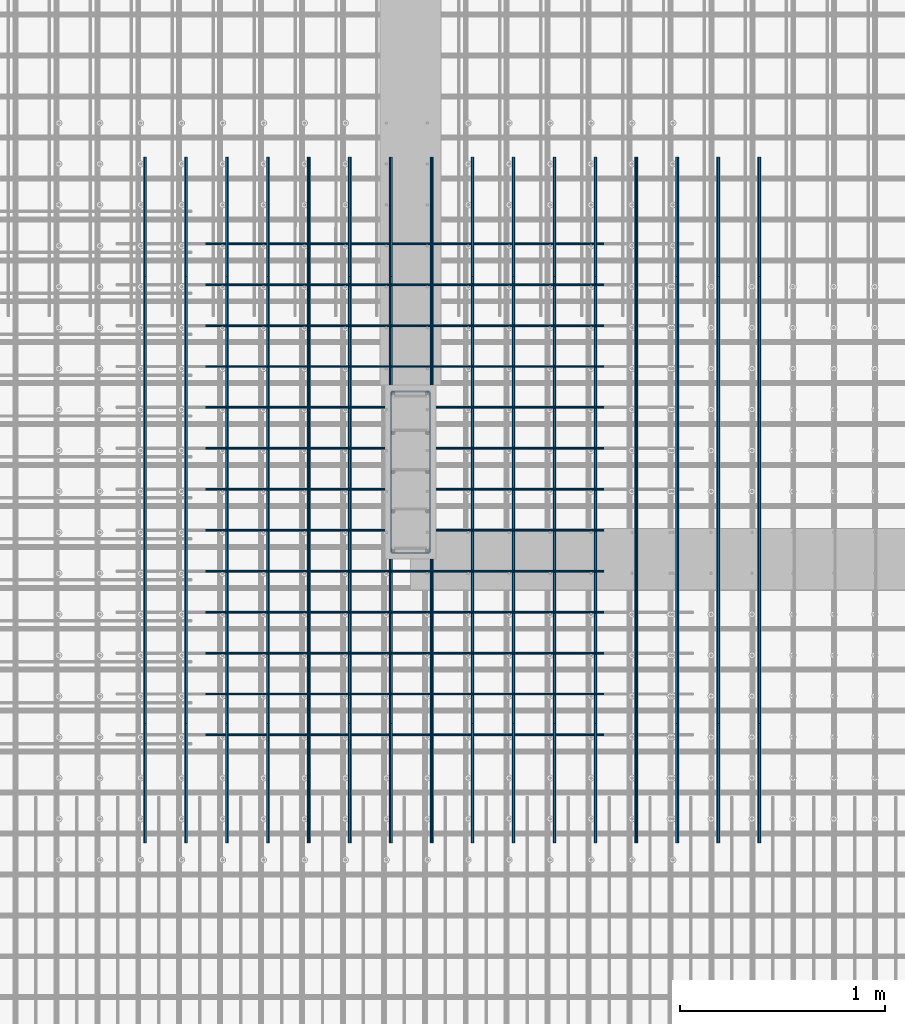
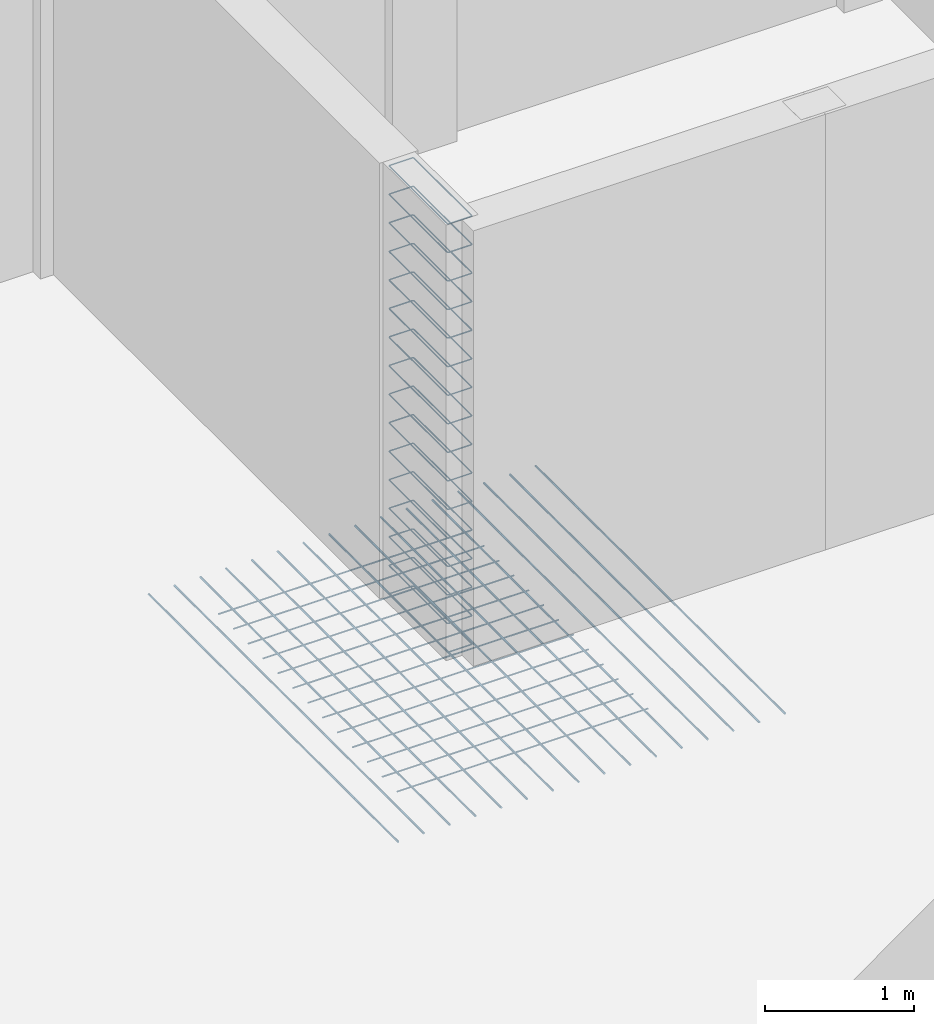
# One storey, part 6 of 8: 4 reinforcing bars.
"""IFC4 building model written with IfcOpenShell, lengths in metres."""

from ifc_helpers import new_model, entity, si_unit, origin_with_axes, place, context, project, spatial, source, transform, mapped, element, save


model = new_model("IFC4")

# Units and contexts
model_context = context("Model", 3, precision=1e-05, world=origin_with_axes())
ifc_project = project(units=[si_unit("LENGTHUNIT", "METRE"), si_unit("AREAUNIT", "SQUARE_METRE"), si_unit("VOLUMEUNIT", "CUBIC_METRE"), si_unit("MASSUNIT", "GRAM", prefix="KILO"), si_unit("TIMEUNIT", "SECOND"), si_unit("PLANEANGLEUNIT", "RADIAN"), si_unit("SOLIDANGLEUNIT", "STERADIAN"), si_unit("THERMODYNAMICTEMPERATUREUNIT", "DEGREE_CELSIUS")], contexts=[model_context])

# Site, building, storey
placement_1 = place(None, origin_with_axes())
site = spatial("IfcSite", under=ifc_project, at=placement_1, Name="Italia", CompositionType="ELEMENT")
building = spatial("IfcBuilding", under=site, at=placement_1, Name="Abitazione", CompositionType="ELEMENT")
storey = spatial("IfcBuildingStorey", under=building, at=placement_1, Name="Storey 0", CompositionType="ELEMENT", Elevation=0.0)

# Reinforcing bars
shared_shape_1 = source(origin_with_axes(), model_context, "Body", "AdvancedSweptSolid", [
    entity("IfcSweptDiskSolid", entity("IfcIndexedPolyCurve", entity("IfcCartesianPointList3D", [[8.035, 6.27, 0.04], [8.035, 6.75, 0.04], [8.03576, 6.75383, 0.04], [8.03793, 6.75707, 0.04], [8.04117, 6.75924, 0.04], [8.045, 6.76, 0.04], [8.215, 6.76, 0.04], [8.21883, 6.75924, 0.04], [8.22207, 6.75707, 0.04], [8.22424, 6.75383, 0.04], [8.225, 6.75, 0.04], [8.225, 6.27, 0.04]]), [entity("IfcLineIndex", [1, 2]), entity("IfcLineIndex", [2, 3]), entity("IfcLineIndex", [3, 4]), entity("IfcLineIndex", [4, 5]), entity("IfcLineIndex", [5, 6]), entity("IfcLineIndex", [6, 7]), entity("IfcLineIndex", [7, 8]), entity("IfcLineIndex", [8, 9]), entity("IfcLineIndex", [9, 10]), entity("IfcLineIndex", [10, 11]), entity("IfcLineIndex", [11, 12])], False), 0.005),
])
placement_2 = place(placement_1, origin_with_axes())
reinforcing_bar_1_placement = place(placement_2, origin_with_axes())
element("IfcReinforcingBar", 1, at=reinforcing_bar_1_placement, inside=storey, BarLength=1.16122, CrossSectionArea=7.854e-05, NominalDiameter=0.01, context=model_context, shape_type="MappedRepresentation", body=[
    mapped(shared_shape_1, transform((0.0, 0.0, 2.34), x_axis=(1.0, 0.0, 0.0), y_axis=(0.0, 1.0, 0.0), z_axis=(0.0, 0.0, 1.0), scale=1.0)),
    mapped(shared_shape_1, transform((0.0, 0.0, 2.574), x_axis=(1.0, 0.0, 0.0), y_axis=(0.0, 1.0, 0.0), z_axis=(0.0, 0.0, 1.0), scale=1.0)),
    mapped(shared_shape_1, transform((0.0, 0.0, 1.872), x_axis=(1.0, 0.0, 0.0), y_axis=(0.0, 1.0, 0.0), z_axis=(0.0, 0.0, 1.0), scale=1.0)),
    mapped(shared_shape_1, transform((0.0, 0.0, 2.106), x_axis=(1.0, 0.0, 0.0), y_axis=(0.0, 1.0, 0.0), z_axis=(0.0, 0.0, 1.0), scale=1.0)),
    mapped(shared_shape_1, transform((0.0, 0.0, 3.276), x_axis=(1.0, 0.0, 0.0), y_axis=(0.0, 1.0, 0.0), z_axis=(0.0, 0.0, 1.0), scale=1.0)),
    mapped(shared_shape_1, transform((0.0, 0.0, 3.51), x_axis=(1.0, 0.0, 0.0), y_axis=(0.0, 1.0, 0.0), z_axis=(0.0, 0.0, 1.0), scale=1.0)),
    mapped(shared_shape_1, transform((0.0, 0.0, 2.808), x_axis=(1.0, 0.0, 0.0), y_axis=(0.0, 1.0, 0.0), z_axis=(0.0, 0.0, 1.0), scale=1.0)),
    mapped(shared_shape_1, transform((0.0, 0.0, 3.042), x_axis=(1.0, 0.0, 0.0), y_axis=(0.0, 1.0, 0.0), z_axis=(0.0, 0.0, 1.0), scale=1.0)),
    mapped(shared_shape_1, transform((0.0, 0.0, 0.468), x_axis=(1.0, 0.0, 0.0), y_axis=(0.0, 1.0, 0.0), z_axis=(0.0, 0.0, 1.0), scale=1.0)),
    mapped(shared_shape_1, transform((0.0, 0.0, 0.702), x_axis=(1.0, 0.0, 0.0), y_axis=(0.0, 1.0, 0.0), z_axis=(0.0, 0.0, 1.0), scale=1.0)),
    mapped(shared_shape_1, transform((16.26, 12.73, 0.0), x_axis=(-1.0, 0.0, 0.0), y_axis=(0.0, -1.0, 0.0), z_axis=(0.0, 0.0, 1.0), scale=1.0)),
    mapped(shared_shape_1, transform((0.0, 0.0, 0.0), x_axis=(1.0, 0.0, 0.0), y_axis=(0.0, 1.0, 0.0), z_axis=(0.0, 0.0, 1.0), scale=1.0)),
    mapped(shared_shape_1, transform((16.26, 12.73, 0.234), x_axis=(-1.0, 0.0, 0.0), y_axis=(0.0, -1.0, 0.0), z_axis=(0.0, 0.0, 1.0), scale=1.0)),
    mapped(shared_shape_1, transform((0.0, 0.0, 0.234), x_axis=(1.0, 0.0, 0.0), y_axis=(0.0, 1.0, 0.0), z_axis=(0.0, 0.0, 1.0), scale=1.0)),
    mapped(shared_shape_1, transform((16.26, 12.73, 0.468), x_axis=(-1.0, 0.0, 0.0), y_axis=(0.0, -1.0, 0.0), z_axis=(0.0, 0.0, 1.0), scale=1.0)),
    mapped(shared_shape_1, transform((16.26, 12.73, 0.702), x_axis=(-1.0, 0.0, 0.0), y_axis=(0.0, -1.0, 0.0), z_axis=(0.0, 0.0, 1.0), scale=1.0)),
    mapped(shared_shape_1, transform((0.0, 0.0, 1.404), x_axis=(1.0, 0.0, 0.0), y_axis=(0.0, 1.0, 0.0), z_axis=(0.0, 0.0, 1.0), scale=1.0)),
    mapped(shared_shape_1, transform((0.0, 0.0, 1.638), x_axis=(1.0, 0.0, 0.0), y_axis=(0.0, 1.0, 0.0), z_axis=(0.0, 0.0, 1.0), scale=1.0)),
    mapped(shared_shape_1, transform((16.26, 12.73, 0.936), x_axis=(-1.0, 0.0, 0.0), y_axis=(0.0, -1.0, 0.0), z_axis=(0.0, 0.0, 1.0), scale=1.0)),
    mapped(shared_shape_1, transform((0.0, 0.0, 0.936), x_axis=(1.0, 0.0, 0.0), y_axis=(0.0, 1.0, 0.0), z_axis=(0.0, 0.0, 1.0), scale=1.0)),
    mapped(shared_shape_1, transform((16.26, 12.73, 1.17), x_axis=(-1.0, 0.0, 0.0), y_axis=(0.0, -1.0, 0.0), z_axis=(0.0, 0.0, 1.0), scale=1.0)),
    mapped(shared_shape_1, transform((0.0, 0.0, 1.17), x_axis=(1.0, 0.0, 0.0), y_axis=(0.0, 1.0, 0.0), z_axis=(0.0, 0.0, 1.0), scale=1.0)),
    mapped(shared_shape_1, transform((16.26, 12.73, 2.34), x_axis=(-1.0, 0.0, 0.0), y_axis=(0.0, -1.0, 0.0), z_axis=(0.0, 0.0, 1.0), scale=1.0)),
    mapped(shared_shape_1, transform((16.26, 12.73, 2.574), x_axis=(-1.0, 0.0, 0.0), y_axis=(0.0, -1.0, 0.0), z_axis=(0.0, 0.0, 1.0), scale=1.0)),
    mapped(shared_shape_1, transform((16.26, 12.73, 1.872), x_axis=(-1.0, 0.0, 0.0), y_axis=(0.0, -1.0, 0.0), z_axis=(0.0, 0.0, 1.0), scale=1.0)),
    mapped(shared_shape_1, transform((16.26, 12.73, 2.106), x_axis=(-1.0, 0.0, 0.0), y_axis=(0.0, -1.0, 0.0), z_axis=(0.0, 0.0, 1.0), scale=1.0)),
    mapped(shared_shape_1, transform((16.26, 12.73, 3.276), x_axis=(-1.0, 0.0, 0.0), y_axis=(0.0, -1.0, 0.0), z_axis=(0.0, 0.0, 1.0), scale=1.0)),
    mapped(shared_shape_1, transform((16.26, 12.73, 3.51), x_axis=(-1.0, 0.0, 0.0), y_axis=(0.0, -1.0, 0.0), z_axis=(0.0, 0.0, 1.0), scale=1.0)),
    mapped(shared_shape_1, transform((16.26, 12.73, 2.808), x_axis=(-1.0, 0.0, 0.0), y_axis=(0.0, -1.0, 0.0), z_axis=(0.0, 0.0, 1.0), scale=1.0)),
    mapped(shared_shape_1, transform((16.26, 12.73, 3.042), x_axis=(-1.0, 0.0, 0.0), y_axis=(0.0, -1.0, 0.0), z_axis=(0.0, 0.0, 1.0), scale=1.0)),
    mapped(shared_shape_1, transform((16.26, 12.73, 1.404), x_axis=(-1.0, 0.0, 0.0), y_axis=(0.0, -1.0, 0.0), z_axis=(0.0, 0.0, 1.0), scale=1.0)),
    mapped(shared_shape_1, transform((16.26, 12.73, 1.638), x_axis=(-1.0, 0.0, 0.0), y_axis=(0.0, -1.0, 0.0), z_axis=(0.0, 0.0, 1.0), scale=1.0)),
])
shared_shape_2 = source(origin_with_axes(), model_context, "Body", "AdvancedSweptSolid", [
    entity("IfcSweptDiskSolid", entity("IfcIndexedPolyCurve", entity("IfcCartesianPointList3D", [[7.12918, 5.0812, -0.246], [9.07509, 5.0812, -0.246]]), [entity("IfcLineIndex", [1, 2])], False), 0.006),
])
reinforcing_bar_2_placement = place(placement_2, origin_with_axes())
element("IfcReinforcingBar", 2, at=reinforcing_bar_2_placement, inside=storey, BarLength=1.94591, CrossSectionArea=0.0001131, NominalDiameter=0.012, context=model_context, shape_type="MappedRepresentation", body=[
    mapped(shared_shape_2, transform((0.0, 2.4, 0.0), x_axis=(1.0, 0.0, 0.0), y_axis=(0.0, 1.0, 0.0), z_axis=(0.0, 0.0, 1.0), scale=1.0)),
    mapped(shared_shape_2, transform((0.0, 1.6, 0.0), x_axis=(1.0, 0.0, 0.0), y_axis=(0.0, 1.0, 0.0), z_axis=(0.0, 0.0, 1.0), scale=1.0)),
    mapped(shared_shape_2, transform((0.0, 1.4, 0.0), x_axis=(1.0, 0.0, 0.0), y_axis=(0.0, 1.0, 0.0), z_axis=(0.0, 0.0, 1.0), scale=1.0)),
    mapped(shared_shape_2, transform((0.0, 1.8, 0.0), x_axis=(1.0, 0.0, 0.0), y_axis=(0.0, 1.0, 0.0), z_axis=(0.0, 0.0, 1.0), scale=1.0)),
    mapped(shared_shape_2, transform((0.0, 2.2, 0.0), x_axis=(1.0, 0.0, 0.0), y_axis=(0.0, 1.0, 0.0), z_axis=(0.0, 0.0, 1.0), scale=1.0)),
    mapped(shared_shape_2, transform((0.0, 2.0, 0.0), x_axis=(1.0, 0.0, 0.0), y_axis=(0.0, 1.0, 0.0), z_axis=(0.0, 0.0, 1.0), scale=1.0)),
    mapped(shared_shape_2, transform((0.0, 1.2, 0.0), x_axis=(1.0, 0.0, 0.0), y_axis=(0.0, 1.0, 0.0), z_axis=(0.0, 0.0, 1.0), scale=1.0)),
    mapped(shared_shape_2, transform((0.0, 0.399999, 0.0), x_axis=(1.0, 0.0, 0.0), y_axis=(0.0, 1.0, 0.0), z_axis=(0.0, 0.0, 1.0), scale=1.0)),
    mapped(shared_shape_2, transform((0.0, 0.199999, 0.0), x_axis=(1.0, 0.0, 0.0), y_axis=(0.0, 1.0, 0.0), z_axis=(0.0, 0.0, 1.0), scale=1.0)),
    mapped(shared_shape_2, transform((0.0, 0.599999, 0.0), x_axis=(1.0, 0.0, 0.0), y_axis=(0.0, 1.0, 0.0), z_axis=(0.0, 0.0, 1.0), scale=1.0)),
    mapped(shared_shape_2, transform((0.0, 0.999999, 0.0), x_axis=(1.0, 0.0, 0.0), y_axis=(0.0, 1.0, 0.0), z_axis=(0.0, 0.0, 1.0), scale=1.0)),
    mapped(shared_shape_2, transform((0.0, 0.799999, 0.0), x_axis=(1.0, 0.0, 0.0), y_axis=(0.0, 1.0, 0.0), z_axis=(0.0, 0.0, 1.0), scale=1.0)),
    mapped(shared_shape_2, transform((0.0, 0.0, 0.0), x_axis=(1.0, 0.0, 0.0), y_axis=(0.0, 1.0, 0.0), z_axis=(0.0, 0.0, 1.0), scale=1.0)),
])
shared_shape_3 = source(origin_with_axes(), model_context, "Body", "AdvancedSweptSolid", [
    entity("IfcSweptDiskSolid", entity("IfcIndexedPolyCurve", entity("IfcCartesianPointList3D", [[6.83348, 5.13672, -0.234], [6.83348, 7.32127, -0.234]]), [entity("IfcLineIndex", [1, 2])], False), 0.008),
])
reinforcing_bar_3_placement = place(placement_2, origin_with_axes())
element("IfcReinforcingBar", 3, at=reinforcing_bar_3_placement, inside=storey, BarLength=2.18455, CrossSectionArea=0.00020106, NominalDiameter=0.016, context=model_context, shape_type="MappedRepresentation", body=[
    mapped(shared_shape_3, transform((1.0, 0.0, 0.0), x_axis=(1.0, 0.0, 0.0), y_axis=(0.0, 1.0, 0.0), z_axis=(0.0, 0.0, 1.0), scale=1.0)),
    mapped(shared_shape_3, transform((0.8, 0.0, 0.0), x_axis=(1.0, 0.0, 0.0), y_axis=(0.0, 1.0, 0.0), z_axis=(0.0, 0.0, 1.0), scale=1.0)),
    mapped(shared_shape_3, transform((1.4, 0.0, 0.0), x_axis=(1.0, 0.0, 0.0), y_axis=(0.0, 1.0, 0.0), z_axis=(0.0, 0.0, 1.0), scale=1.0)),
    mapped(shared_shape_3, transform((1.2, 0.0, 0.0), x_axis=(1.0, 0.0, 0.0), y_axis=(0.0, 1.0, 0.0), z_axis=(0.0, 0.0, 1.0), scale=1.0)),
    mapped(shared_shape_3, transform((0.2, 0.0, 0.0), x_axis=(1.0, 0.0, 0.0), y_axis=(0.0, 1.0, 0.0), z_axis=(0.0, 0.0, 1.0), scale=1.0)),
    mapped(shared_shape_3, transform((0.0, 0.0, 0.0), x_axis=(1.0, 0.0, 0.0), y_axis=(0.0, 1.0, 0.0), z_axis=(0.0, 0.0, 1.0), scale=1.0)),
    mapped(shared_shape_3, transform((0.6, 0.0, 0.0), x_axis=(1.0, 0.0, 0.0), y_axis=(0.0, 1.0, 0.0), z_axis=(0.0, 0.0, 1.0), scale=1.0)),
    mapped(shared_shape_3, transform((0.4, 0.0, 0.0), x_axis=(1.0, 0.0, 0.0), y_axis=(0.0, 1.0, 0.0), z_axis=(0.0, 0.0, 1.0), scale=1.0)),
    mapped(shared_shape_3, transform((2.6, 0.0, 0.0), x_axis=(1.0, 0.0, 0.0), y_axis=(0.0, 1.0, 0.0), z_axis=(0.0, 0.0, 1.0), scale=1.0)),
    mapped(shared_shape_3, transform((2.4, 0.0, 0.0), x_axis=(1.0, 0.0, 0.0), y_axis=(0.0, 1.0, 0.0), z_axis=(0.0, 0.0, 1.0), scale=1.0)),
    mapped(shared_shape_3, transform((3.0, 0.0, 0.0), x_axis=(1.0, 0.0, 0.0), y_axis=(0.0, 1.0, 0.0), z_axis=(0.0, 0.0, 1.0), scale=1.0)),
    mapped(shared_shape_3, transform((2.8, 0.0, 0.0), x_axis=(1.0, 0.0, 0.0), y_axis=(0.0, 1.0, 0.0), z_axis=(0.0, 0.0, 1.0), scale=1.0)),
    mapped(shared_shape_3, transform((1.8, 0.0, 0.0), x_axis=(1.0, 0.0, 0.0), y_axis=(0.0, 1.0, 0.0), z_axis=(0.0, 0.0, 1.0), scale=1.0)),
    mapped(shared_shape_3, transform((1.6, 0.0, 0.0), x_axis=(1.0, 0.0, 0.0), y_axis=(0.0, 1.0, 0.0), z_axis=(0.0, 0.0, 1.0), scale=1.0)),
    mapped(shared_shape_3, transform((2.2, 0.0, 0.0), x_axis=(1.0, 0.0, 0.0), y_axis=(0.0, 1.0, 0.0), z_axis=(0.0, 0.0, 1.0), scale=1.0)),
    mapped(shared_shape_3, transform((2.0, 0.0, 0.0), x_axis=(1.0, 0.0, 0.0), y_axis=(0.0, 1.0, 0.0), z_axis=(0.0, 0.0, 1.0), scale=1.0)),
])
shared_shape_4 = source(origin_with_axes(), model_context, "Body", "AdvancedSweptSolid", [
    entity("IfcSweptDiskSolid", entity("IfcIndexedPolyCurve", entity("IfcCartesianPointList3D", [[6.83348, 4.554, -0.234], [6.83348, 5.13672, -0.234]]), [entity("IfcLineIndex", [1, 2])], False), 0.008),
])
reinforcing_bar_4_placement = place(placement_2, origin_with_axes())
element("IfcReinforcingBar", 4, at=reinforcing_bar_4_placement, inside=storey, BarLength=0.582727, CrossSectionArea=0.00020106, NominalDiameter=0.016, context=model_context, shape_type="MappedRepresentation", body=[
    mapped(shared_shape_4, transform((1.0, 2.76727, 0.0), x_axis=(1.0, 0.0, 0.0), y_axis=(0.0, 1.0, 0.0), z_axis=(0.0, 0.0, 1.0), scale=1.0)),
    mapped(shared_shape_4, transform((0.8, 2.76727, 0.0), x_axis=(1.0, 0.0, 0.0), y_axis=(0.0, 1.0, 0.0), z_axis=(0.0, 0.0, 1.0), scale=1.0)),
    mapped(shared_shape_4, transform((1.4, 2.76727, 0.0), x_axis=(1.0, 0.0, 0.0), y_axis=(0.0, 1.0, 0.0), z_axis=(0.0, 0.0, 1.0), scale=1.0)),
    mapped(shared_shape_4, transform((1.2, 2.76727, 0.0), x_axis=(1.0, 0.0, 0.0), y_axis=(0.0, 1.0, 0.0), z_axis=(0.0, 0.0, 1.0), scale=1.0)),
    mapped(shared_shape_4, transform((0.2, 2.76727, 0.0), x_axis=(1.0, 0.0, 0.0), y_axis=(0.0, 1.0, 0.0), z_axis=(0.0, 0.0, 1.0), scale=1.0)),
    mapped(shared_shape_4, transform((0.0, 2.76727, 0.0), x_axis=(1.0, 0.0, 0.0), y_axis=(0.0, 1.0, 0.0), z_axis=(0.0, 0.0, 1.0), scale=1.0)),
    mapped(shared_shape_4, transform((0.6, 2.76727, 0.0), x_axis=(1.0, 0.0, 0.0), y_axis=(0.0, 1.0, 0.0), z_axis=(0.0, 0.0, 1.0), scale=1.0)),
    mapped(shared_shape_4, transform((0.4, 2.76727, 0.0), x_axis=(1.0, 0.0, 0.0), y_axis=(0.0, 1.0, 0.0), z_axis=(0.0, 0.0, 1.0), scale=1.0)),
    mapped(shared_shape_4, transform((2.6, 2.76727, 0.0), x_axis=(1.0, 0.0, 0.0), y_axis=(0.0, 1.0, 0.0), z_axis=(0.0, 0.0, 1.0), scale=1.0)),
    mapped(shared_shape_4, transform((2.4, 2.76727, 0.0), x_axis=(1.0, 0.0, 0.0), y_axis=(0.0, 1.0, 0.0), z_axis=(0.0, 0.0, 1.0), scale=1.0)),
    mapped(shared_shape_4, transform((3.0, 2.76727, 0.0), x_axis=(1.0, 0.0, 0.0), y_axis=(0.0, 1.0, 0.0), z_axis=(0.0, 0.0, 1.0), scale=1.0)),
    mapped(shared_shape_4, transform((2.8, 2.76727, 0.0), x_axis=(1.0, 0.0, 0.0), y_axis=(0.0, 1.0, 0.0), z_axis=(0.0, 0.0, 1.0), scale=1.0)),
    mapped(shared_shape_4, transform((1.8, 2.76727, 0.0), x_axis=(1.0, 0.0, 0.0), y_axis=(0.0, 1.0, 0.0), z_axis=(0.0, 0.0, 1.0), scale=1.0)),
    mapped(shared_shape_4, transform((1.6, 2.76727, 0.0), x_axis=(1.0, 0.0, 0.0), y_axis=(0.0, 1.0, 0.0), z_axis=(0.0, 0.0, 1.0), scale=1.0)),
    mapped(shared_shape_4, transform((2.2, 2.76727, 0.0), x_axis=(1.0, 0.0, 0.0), y_axis=(0.0, 1.0, 0.0), z_axis=(0.0, 0.0, 1.0), scale=1.0)),
    mapped(shared_shape_4, transform((2.0, 2.76727, 0.0), x_axis=(1.0, 0.0, 0.0), y_axis=(0.0, 1.0, 0.0), z_axis=(0.0, 0.0, 1.0), scale=1.0)),
    mapped(shared_shape_4, transform((1.0, 0.0, 0.0), x_axis=(1.0, 0.0, 0.0), y_axis=(0.0, 1.0, 0.0), z_axis=(0.0, 0.0, 1.0), scale=1.0)),
    mapped(shared_shape_4, transform((0.8, 0.0, 0.0), x_axis=(1.0, 0.0, 0.0), y_axis=(0.0, 1.0, 0.0), z_axis=(0.0, 0.0, 1.0), scale=1.0)),
    mapped(shared_shape_4, transform((1.4, 0.0, 0.0), x_axis=(1.0, 0.0, 0.0), y_axis=(0.0, 1.0, 0.0), z_axis=(0.0, 0.0, 1.0), scale=1.0)),
    mapped(shared_shape_4, transform((1.2, 0.0, 0.0), x_axis=(1.0, 0.0, 0.0), y_axis=(0.0, 1.0, 0.0), z_axis=(0.0, 0.0, 1.0), scale=1.0)),
    mapped(shared_shape_4, transform((0.2, 0.0, 0.0), x_axis=(1.0, 0.0, 0.0), y_axis=(0.0, 1.0, 0.0), z_axis=(0.0, 0.0, 1.0), scale=1.0)),
    mapped(shared_shape_4, transform((0.0, 0.0, 0.0), x_axis=(1.0, 0.0, 0.0), y_axis=(0.0, 1.0, 0.0), z_axis=(0.0, 0.0, 1.0), scale=1.0)),
    mapped(shared_shape_4, transform((0.6, 0.0, 0.0), x_axis=(1.0, 0.0, 0.0), y_axis=(0.0, 1.0, 0.0), z_axis=(0.0, 0.0, 1.0), scale=1.0)),
    mapped(shared_shape_4, transform((0.4, 0.0, 0.0), x_axis=(1.0, 0.0, 0.0), y_axis=(0.0, 1.0, 0.0), z_axis=(0.0, 0.0, 1.0), scale=1.0)),
    mapped(shared_shape_4, transform((2.6, 0.0, 0.0), x_axis=(1.0, 0.0, 0.0), y_axis=(0.0, 1.0, 0.0), z_axis=(0.0, 0.0, 1.0), scale=1.0)),
    mapped(shared_shape_4, transform((2.4, 0.0, 0.0), x_axis=(1.0, 0.0, 0.0), y_axis=(0.0, 1.0, 0.0), z_axis=(0.0, 0.0, 1.0), scale=1.0)),
    mapped(shared_shape_4, transform((3.0, 0.0, 0.0), x_axis=(1.0, 0.0, 0.0), y_axis=(0.0, 1.0, 0.0), z_axis=(0.0, 0.0, 1.0), scale=1.0)),
    mapped(shared_shape_4, transform((2.8, 0.0, 0.0), x_axis=(1.0, 0.0, 0.0), y_axis=(0.0, 1.0, 0.0), z_axis=(0.0, 0.0, 1.0), scale=1.0)),
    mapped(shared_shape_4, transform((1.8, 0.0, 0.0), x_axis=(1.0, 0.0, 0.0), y_axis=(0.0, 1.0, 0.0), z_axis=(0.0, 0.0, 1.0), scale=1.0)),
    mapped(shared_shape_4, transform((1.6, 0.0, 0.0), x_axis=(1.0, 0.0, 0.0), y_axis=(0.0, 1.0, 0.0), z_axis=(0.0, 0.0, 1.0), scale=1.0)),
    mapped(shared_shape_4, transform((2.2, 0.0, 0.0), x_axis=(1.0, 0.0, 0.0), y_axis=(0.0, 1.0, 0.0), z_axis=(0.0, 0.0, 1.0), scale=1.0)),
    mapped(shared_shape_4, transform((2.0, 0.0, 0.0), x_axis=(1.0, 0.0, 0.0), y_axis=(0.0, 1.0, 0.0), z_axis=(0.0, 0.0, 1.0), scale=1.0)),
])

save(model, "model.ifc")
